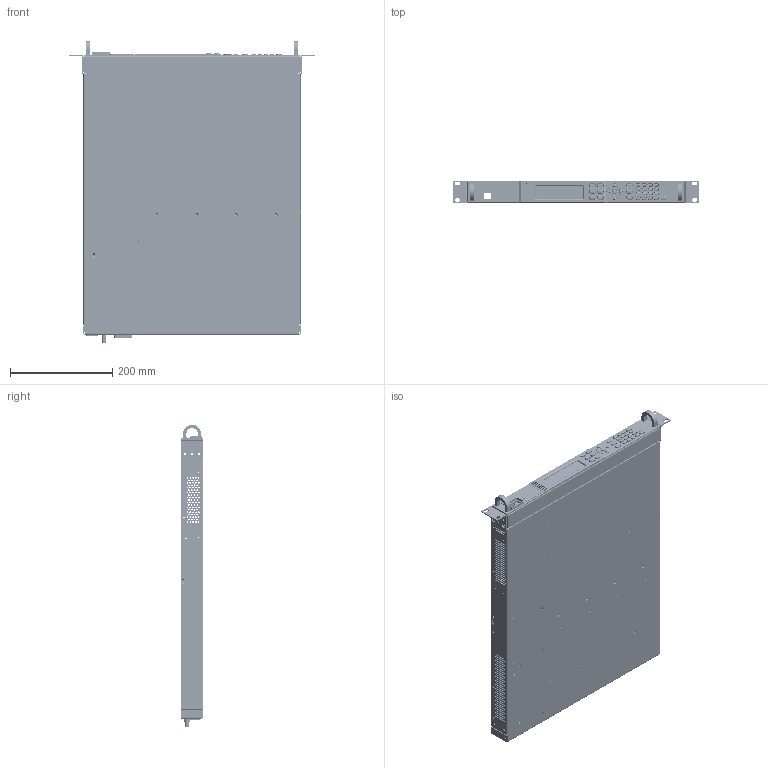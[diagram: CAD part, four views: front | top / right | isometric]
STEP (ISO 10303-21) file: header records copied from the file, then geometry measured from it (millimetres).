
FILE_DESCRIPTION(('CoCreate Modeling STEP Export'),'2;1');
FILE_NAME('customerSTEP.stp','2009-08-03T14:57:49',(''),(''),'CoCreate Modeling STEP processor for AP214 (Solid Model)','CoCreate Modeling 16.00C 25-Feb-2009 (C) Parametric Technology GmbH','');
FILE_SCHEMA(('AUTOMOTIVE_DESIGN { 1 0 10303 214 1 1 1 1 }'));
Length unit declared in the file: millimetre
Products named in the file (94): header_26pin; back_plane_bd; header_26pin.1; header_26pin.1.1; header_26pin.1.1.1; Connect30pin; M4_std; M4_std.1; M4_std.2; M4_std3; pem_3mpcb; pem_3mpcb.1; pem_3mpcb.2; pem_3mpcb.2.1; Backplane_assy; ground_post; Hardware; 5002-2811.2; 5002-2811.3; 5002-2811; 0590-1081.2; 5002-2810.1; 5002-2810; 0590-1462.4.1; 5002-2807.1; 5002-2807; 5002-2805.41; 5002-2805.3; 5002-2805.39; 5002-2805.2; 5002-2817.4; 5002-2805; 5002-2809.1; 5002-2809; Sheetmetal; brick_pcb; phoenix; output_pca9.5; 5002-2819.9; 5002-2819.1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
Assembly tree (112 placements, depth 4):
  Backplane_assy
    pem_3mpcb.2.1
    pem_3mpcb.2
    pem_3mpcb.1
    pem_3mpcb
    M4_std3
    M4_std.2
    M4_std.1
    M4_std
    Connect30pin
    header_26pin.1.1.1
    header_26pin.1.1
    header_26pin.1
    back_plane_bd
    header_26pin
  Hardware
    ground_post
  Sheetmetal
    5002-2809
      0590-1462.4.1  x4
      5002-2809.1
    5002-2805
      5002-2817.4
      5002-2805.2
        0590-1462.4.1
        5002-2805.39
      5002-2805.3
        5002-2805.41
        0590-1462.4.1  x3
    5002-2807
      0590-1462.4.1  x3
      5002-2807.1
    5002-2810
      5002-2810.1
      0590-1081.2  x2
    5002-2811
      5002-2811.3
      5002-2811.2
  brick
    brick.3
      5002-2820
        0590-1459.5  x6
        0590-1261.2  x2
        5002-2820.1
      brick_blower.1
      5002-2819
        5002-2819.8
        0590-1081.2  x7
        5002-2819.1
        5002-2819.9
      output_pca9.5
        phoenix
        brick_pcb
  brick.1
    brick.3
      5002-2820
        0590-1459.5  x6
        0590-1261.2  x2
        5002-2820.1
      brick_blower.1
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Bounding box: 482.43 x 43.65 x 592.95 mm (x, y, z)
Volume: 1788356.4 mm3; surface area: 2114934.3 mm2
Topology: 158 solids, 160 shells, 14473 faces, 37323 edges, 23743 vertices
Faces by surface type: plane 6395, cylinder 4796, cone 1854, torus 940, bspline 418, sphere 70
Entity records: 381813 total; most frequent: CARTESIAN_POINT 109589, ORIENTED_EDGE 58208, DIRECTION 46502, EDGE_CURVE 29104, VERTEX_POINT 18298, AXIS2_PLACEMENT_3D 15736, VECTOR 15030, LINE 15030
